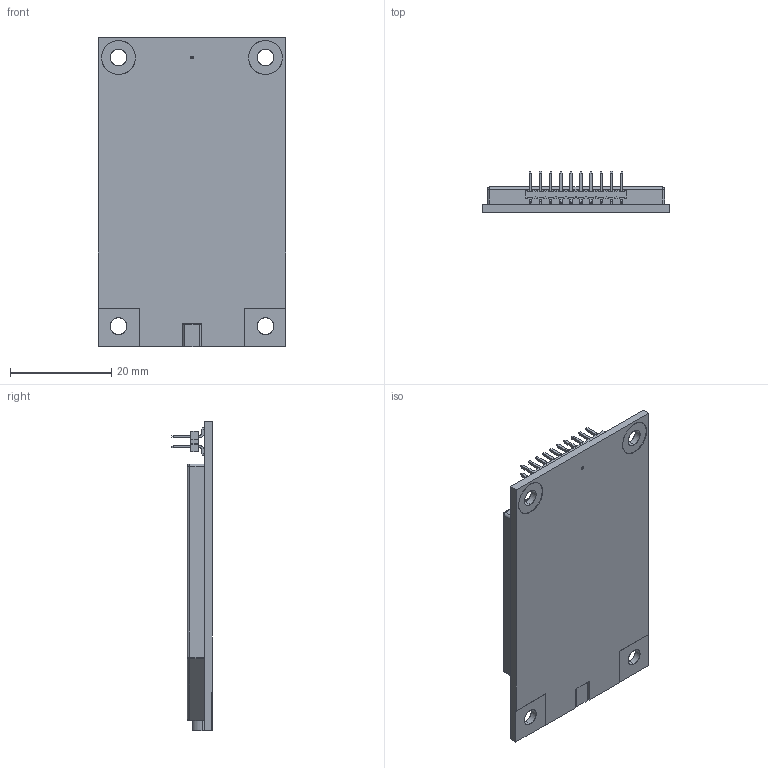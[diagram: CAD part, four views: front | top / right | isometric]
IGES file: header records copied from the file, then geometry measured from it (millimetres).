
Start section: SolidWorks IGES file using analytic representation for surfaces
Global section: file name: C:\Documents and Settings\paulc.TRANSERA\My Documents\Maxstream\MMCX.IGS; native system: SolidWorks 2005 by SolidWorks Corporation; preprocessor: SolidWorks 2005 by SolidWorks Corporation; author: paulc; date: 050126.084036; units: inch
Bounding box: 37 x 8.09 x 61.05 mm (x, y, z)
Surface area: 6002.1 mm2 (no closed solid volume)
Topology: 0 solids, 0 shells, 716 faces, 4930 edges, 4928 vertices
Faces by surface type: bspline 612, revolution 104
